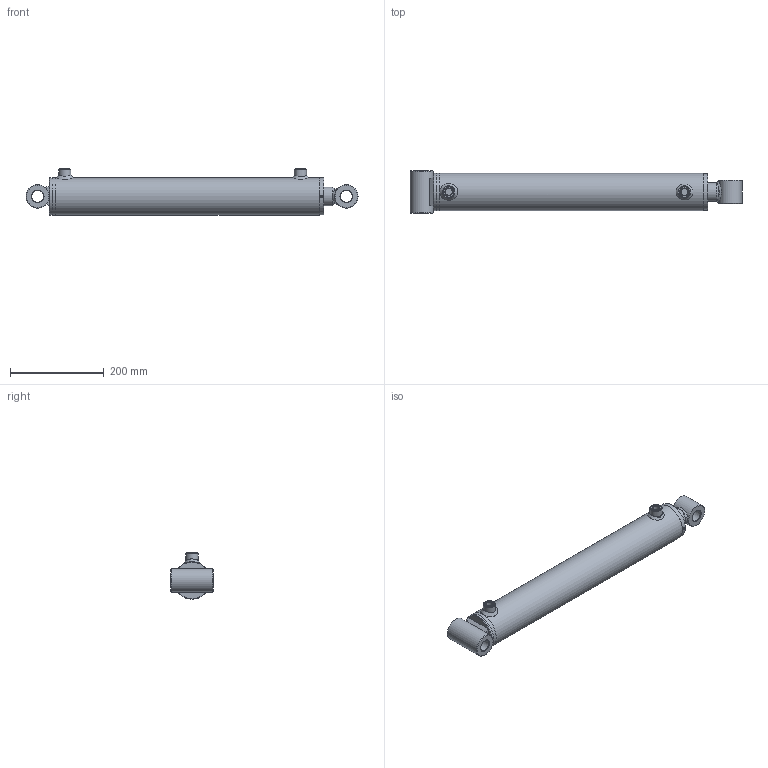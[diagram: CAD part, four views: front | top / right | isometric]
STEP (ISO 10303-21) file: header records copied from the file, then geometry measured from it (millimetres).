
FILE_DESCRIPTION( ( 'Unknown' ), '1' );
FILE_NAME( 'E:/LIBRERIA_3d/CILINDRI/HM2/HM24400450.stp', 'Unknown', ( 'Unknown' ), ( 'Unknown' ), 'PSStep 17.0.49', 'Unknown', ' ' );
FILE_SCHEMA( ( 'AUTOMOTIVE_DESIGN { 1 0 10303 214 1 1 1 1 }' ) );
Length unit declared in the file: millimetre
Products named in the file (28): STL4500450-oa7; Saldatura d'angolo 1-oa5; FTM4500450-oa6; CBSC220600; CT00070027; CG08007040; HM04400450; Saldatura con preparazione 1-oa3; Saldatura d'angolo 1-oa4; CF00070080; CBS0600000; CDB0002720; APG0600000; SBL4040450; Assem1; CB25050050; CB25050090; Saldatura d'angolo 1-oa0; Protrusione 1-oa1; Protrusione 2-oa2
Assembly tree (22 placements, depth 4):
  Saldatura d'angolo 1-oa5
  Saldatura d'angolo 1-oa5
  Saldatura d'angolo 1-oa4
  Saldatura d'angolo 1-oa4
  Assem1
    CB25050050
    CB25050090
    Protrusione 1-oa1
    Protrusione 1-oa1
    Protrusione 2-oa2
    Protrusione 2-oa2
    HM04400450
      Saldatura con preparazione 1-oa3
      Saldatura con preparazione 1-oa3
      CF00070080
      CBS0600000
      CDB0002720
      APG0600000  x2
      SBL4040450
      CG08007040
        CG08007040
      CT00070027
        CT00070027
      STL4500450-oa7
        FTM4500450-oa6
        CBSC220600
Bounding box: 710 x 90 x 99 mm (x, y, z)
Volume: 1917112.3 mm3; surface area: 493591.8 mm2
Topology: 24 solids, 24 shells, 254 faces, 514 edges, 317 vertices
Faces by surface type: plane 78, cylinder 63, cone 40, torus 37, bspline 36
Full cylindrical faces by diameter (mm): 4.25 x1, 5 x2, 6 x2, 7 x2, 14.95 x2, 16 x2, 16.6 x2, 22 x2, 25.25 x2, 26 x2, 26.4 x1, 27 x5, 33.2 x1, 40 x4, 41 x1, 42 x1, 43 x1, 48.6 x1, 50 x4, 64.18 x2, 65 x1, 68.34 x2, 69.9 x1, 70 x1, 70.3 x1, 70.5 x1, 70.6 x1, 71 x1, 72 x3, 72.5 x1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
Entity records: 14390 total; most frequent: CARTESIAN_POINT 8015, DIRECTION 898, ORIENTED_EDGE 622, EDGE_LOOP 428, AXIS2_PLACEMENT_3D 423, FACE_OUTER_BOUND 346, EDGE_CURVE 311, VERTEX_POINT 266
